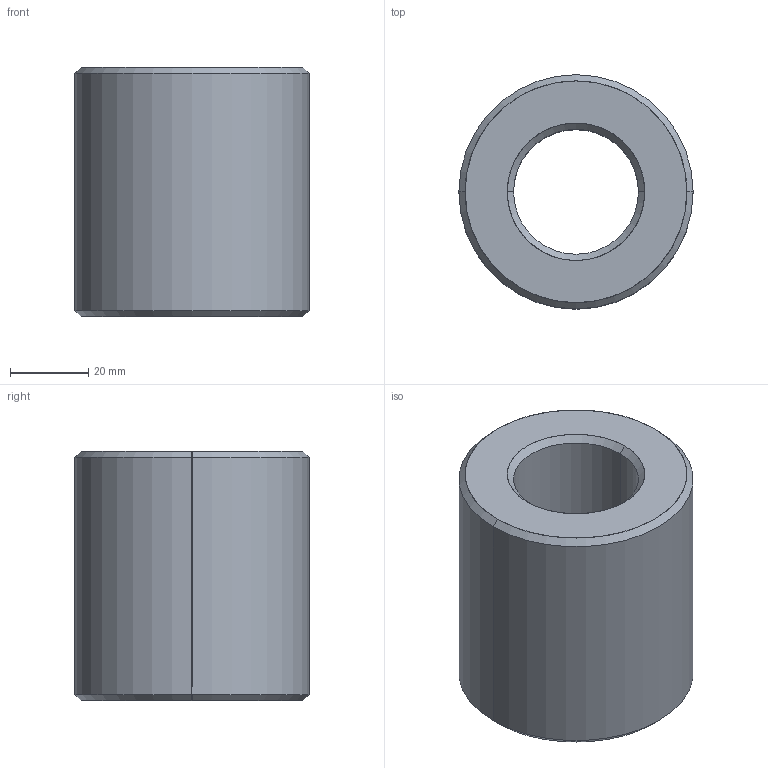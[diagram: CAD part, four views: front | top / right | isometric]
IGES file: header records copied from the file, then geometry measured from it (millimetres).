
Start section: SolidWorks IGES file using analytic representation for surfaces
Global section: file name: C:\Users\ianosborn\Desktop\L1330_v2\L1330_v2_20241024_IGES\L1330.R32-06.igs; native system: SolidWorks 2019; preprocessor: SolidWorks 2019; author: IanOsborn; date: 241024.102843; units: millimetre
Bounding box: 60 x 60 x 64 mm (x, y, z)
Surface area: 22002.3 mm2 (no closed solid volume)
Topology: 0 solids, 0 shells, 14 faces, 304 edges, 304 vertices
Faces by surface type: revolution 12, bspline 2
